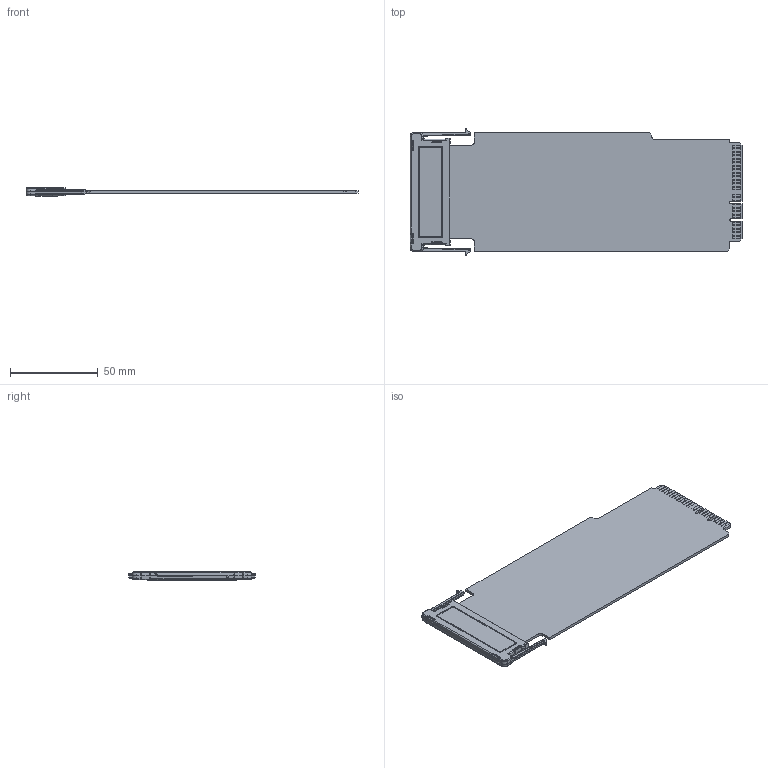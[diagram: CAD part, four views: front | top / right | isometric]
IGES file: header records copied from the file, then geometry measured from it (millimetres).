
Start section:  PTC IGES file: cu_ni-2806.igs
Global section: file name: cu_ni-2806.igs; native system: Pro/ENGINEER by Parametric Technology Corporation; preprocessor: 2006080; author: jjorden; organization: Unknown; date: 100524.093834; units: inch
Bounding box: 189.43 x 72.39 x 4.62 mm (x, y, z)
Surface area: 31365.5 mm2 (no closed solid volume)
Topology: 0 solids, 0 shells, 1113 faces, 5436 edges, 5436 vertices
Faces by surface type: bspline 656, revolution 457
